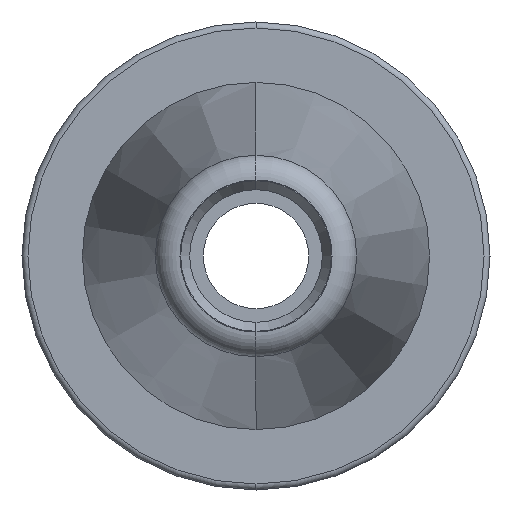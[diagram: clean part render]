
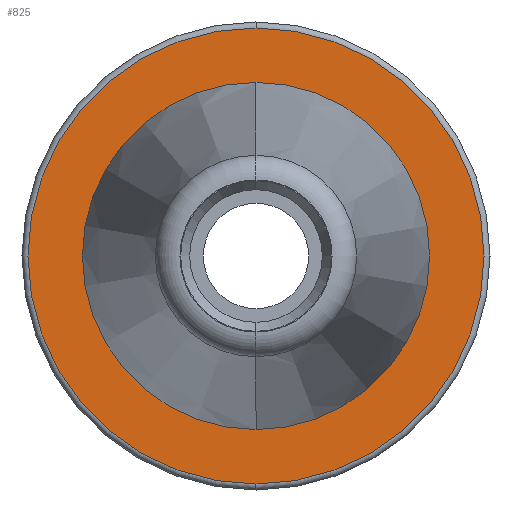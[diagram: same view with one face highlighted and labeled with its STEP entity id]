
A CAD part, left-side view. The second image highlights one B-rep face of the part: STEP entity #825.
In plain terms, the highlighted planar face has unit normal (-1, 0, 0).
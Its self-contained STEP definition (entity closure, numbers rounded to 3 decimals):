
#23 = CARTESIAN_POINT ( 'NONE',  ( -40.4, 0., 0. ) ) ;
#35 = DIRECTION ( 'NONE',  ( 0., 0., 1. ) ) ;
#36 = CARTESIAN_POINT ( 'NONE',  ( -40.4, 0., -14.619 ) ) ;
#74 = ORIENTED_EDGE ( 'NONE', *, *, #620, .F. ) ;
#109 = DIRECTION ( 'NONE',  ( -1., 0., 0. ) ) ;
#122 = DIRECTION ( 'NONE',  ( 0., 0., 1. ) ) ;
#229 = VERTEX_POINT ( 'NONE', #1059 ) ;
#335 = FACE_OUTER_BOUND ( 'NONE', #1159, .T. ) ;
#372 = CARTESIAN_POINT ( 'NONE',  ( -40.4, 11.127, 0. ) ) ;
#386 = VERTEX_POINT ( 'NONE', #36 ) ;
#396 = VERTEX_POINT ( 'NONE', #1619 ) ;
#498 = DIRECTION ( 'NONE',  ( 1., 0., 0. ) ) ;
#543 = CIRCLE ( 'NONE', #1705, 11.127 ) ;
#573 = EDGE_CURVE ( 'NONE', #396, #229, #543, .T. ) ;
#620 = EDGE_CURVE ( 'NONE', #229, #396, #710, .T. ) ;
#665 = DIRECTION ( 'NONE',  ( 0., 0., -1. ) ) ;
#710 = CIRCLE ( 'NONE', #1405, 11.127 ) ;
#773 = CIRCLE ( 'NONE', #1744, 14.619 ) ;
#775 = DIRECTION ( 'NONE',  ( 0., 0., 1. ) ) ;
#825 = ADVANCED_FACE ( 'NONE', ( #1127, #335 ), #1483, .F. ) ;
#855 = ORIENTED_EDGE ( 'NONE', *, *, #1597, .T. ) ;
#917 = DIRECTION ( 'NONE',  ( -1., 0., 0. ) ) ;
#929 = CARTESIAN_POINT ( 'NONE',  ( -40.4, 0., 0. ) ) ;
#1032 = EDGE_LOOP ( 'NONE', ( #74, #1239 ) ) ;
#1052 = AXIS2_PLACEMENT_3D ( 'NONE', #372, #498, #665 ) ;
#1059 = CARTESIAN_POINT ( 'NONE',  ( -40.4, 0., 11.127 ) ) ;
#1127 = FACE_BOUND ( 'NONE', #1032, .T. ) ;
#1159 = EDGE_LOOP ( 'NONE', ( #1870, #855 ) ) ;
#1239 = ORIENTED_EDGE ( 'NONE', *, *, #573, .F. ) ;
#1287 = CARTESIAN_POINT ( 'NONE',  ( -40.4, 0., 0. ) ) ;
#1297 = DIRECTION ( 'NONE',  ( 0., 0., 1. ) ) ;
#1370 = AXIS2_PLACEMENT_3D ( 'NONE', #23, #1947, #35 ) ;
#1405 = AXIS2_PLACEMENT_3D ( 'NONE', #929, #917, #775 ) ;
#1455 = VERTEX_POINT ( 'NONE', #1709 ) ;
#1483 = PLANE ( 'NONE',  #1052 ) ;
#1530 = CARTESIAN_POINT ( 'NONE',  ( -40.4, 0., 0. ) ) ;
#1592 = EDGE_CURVE ( 'NONE', #1455, #386, #2012, .T. ) ;
#1597 = EDGE_CURVE ( 'NONE', #386, #1455, #773, .T. ) ;
#1619 = CARTESIAN_POINT ( 'NONE',  ( -40.4, 0., -11.127 ) ) ;
#1705 = AXIS2_PLACEMENT_3D ( 'NONE', #1530, #109, #122 ) ;
#1709 = CARTESIAN_POINT ( 'NONE',  ( -40.4, 0., 14.619 ) ) ;
#1744 = AXIS2_PLACEMENT_3D ( 'NONE', #1287, #1932, #1297 ) ;
#1870 = ORIENTED_EDGE ( 'NONE', *, *, #1592, .T. ) ;
#1932 = DIRECTION ( 'NONE',  ( -1., 0., 0. ) ) ;
#1947 = DIRECTION ( 'NONE',  ( -1., 0., 0. ) ) ;
#2012 = CIRCLE ( 'NONE', #1370, 14.619 ) ;
